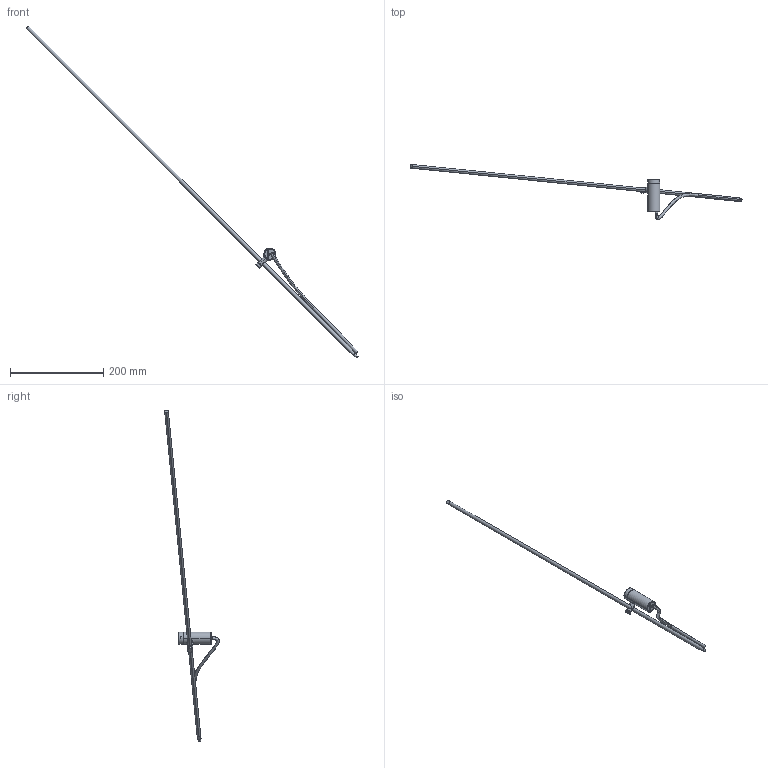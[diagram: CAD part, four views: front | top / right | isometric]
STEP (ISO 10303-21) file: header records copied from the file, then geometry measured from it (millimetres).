
FILE_DESCRIPTION((''),'2;1');
FILE_NAME('CNC_35_SWING_GARDEN_1_SW0001','2025-06-27T13:28:47',('Piccioli'),(''),'CREO PARAMETRIC BY PTC INC, 2025010','CREO PARAMETRIC BY PTC INC, 2025010','');
FILE_SCHEMA(('CONFIG_CONTROL_DESIGN'));
Length unit declared in the file: millimetre
Products named in the file (1): CNC_35_SWING_GARDEN_1_SW0001
Bounding box: 710.3 x 116.98 x 710.3 mm (x, y, z)
Surface area: 38408.2 mm2 (no closed solid volume)
Topology: 0 solids, 26 shells, 98 faces, 787 edges, 713 vertices
Faces by surface type: cylinder 50, plane 39, torus 4, bspline 3, cone 2
Entity records: 10275 total; most frequent: CARTESIAN_POINT 5382, ORIENTED_EDGE 907, EDGE_CURVE 787, DIRECTION 720, VERTEX_POINT 713, B_SPLINE_CURVE_WITH_KNOTS 395, VECTOR 254, LINE 254
